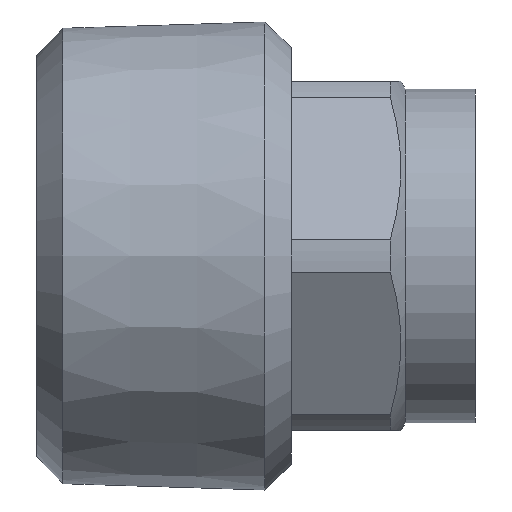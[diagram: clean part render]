
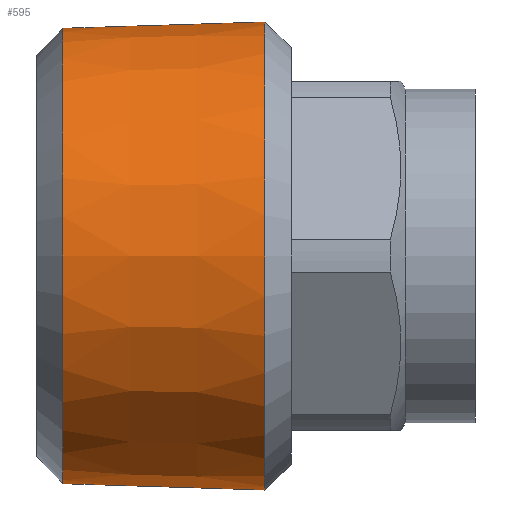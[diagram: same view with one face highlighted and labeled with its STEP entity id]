
A CAD part, front view. The second image highlights one B-rep face of the part: STEP entity #595.
In plain terms, the highlighted conical face has half-angle 1.79 degrees and reference radius 13.152 mm.
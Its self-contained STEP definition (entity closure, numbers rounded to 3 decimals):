
#561=CARTESIAN_POINT('',(13.001,13.331,0.));
#562=VERTEX_POINT('',#561);
#563=CARTESIAN_POINT('',(13.001,0.0,0.));
#564=DIRECTION('',(1.0,0.0,0.0));
#565=DIRECTION('',(0.0,-1.0,0.0));
#566=AXIS2_PLACEMENT_3D('',#563,#564,#565);
#567=CIRCLE('',#566,13.331);
#568=EDGE_CURVE('',#562,#562,#567,.T.);
#576=CARTESIAN_POINT('',(7.25,0.0,0.0));
#577=DIRECTION('',(1.0,0.0,0.0));
#578=DIRECTION('',(0.0,1.0,0.0));
#579=AXIS2_PLACEMENT_3D('',#576,#577,#578);
#580=CONICAL_SURFACE('',#579,13.152,1.79);
#581=CARTESIAN_POINT('',(1.499,12.972,0.));
#582=VERTEX_POINT('',#581);
#583=CARTESIAN_POINT('',(1.499,0.0,0.));
#584=DIRECTION('',(-1.0,0.0,0.0));
#585=DIRECTION('',(0.0,-1.0,0.0));
#586=AXIS2_PLACEMENT_3D('',#583,#584,#585);
#587=CIRCLE('',#586,12.972);
#588=EDGE_CURVE('',#582,#582,#587,.T.);
#589=ORIENTED_EDGE('',*,*,#588,.F.);
#590=EDGE_LOOP('',(#589));
#591=FACE_OUTER_BOUND('',#590,.T.);
#592=ORIENTED_EDGE('',*,*,#568,.F.);
#593=EDGE_LOOP('',(#592));
#594=FACE_BOUND('',#593,.T.);
#595=ADVANCED_FACE('',(#591,#594),#580,.T.);
